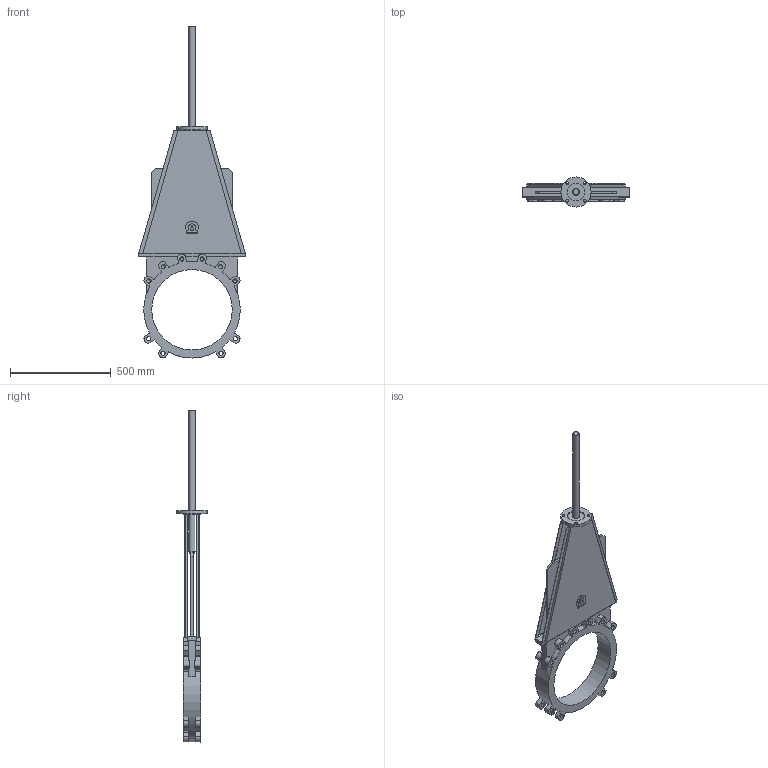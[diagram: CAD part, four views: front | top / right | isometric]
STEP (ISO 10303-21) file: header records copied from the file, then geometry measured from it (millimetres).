
FILE_DESCRIPTION(('STEP AP203'), '1');
FILE_NAME('K51GVA_DN400', '', ('UNSPECIFIED'), ('UNSPECIFIED'), 'ASCON STEP Converter 1.6', 'ASCON Math Kernel', '');
FILE_SCHEMA(('CONFIG_CONTROL_DESIGN'));
Length unit declared in the file: millimetre
Bounding box: 530 x 150 x 1651 mm (x, y, z)
Volume: 10409195.8 mm3; surface area: 1961997.8 mm2
Topology: 1 solids, 1 shells, 263 faces, 762 edges, 497 vertices
Faces by surface type: plane 156, cylinder 94, cone 13
Full cylindrical faces by diameter (mm): 14 x4, 20.752 x20, 32 x2, 80 x1, 85 x1, 150 x1, 400 x1
Entity records: 10678 total; most frequent: CARTESIAN_POINT 1560, DIRECTION 1476, ORIENTED_EDGE 1414, EDGE_CURVE 707, AXIS2_PLACEMENT_3D 509, VERTEX_POINT 485, LINE 458, VECTOR 458
